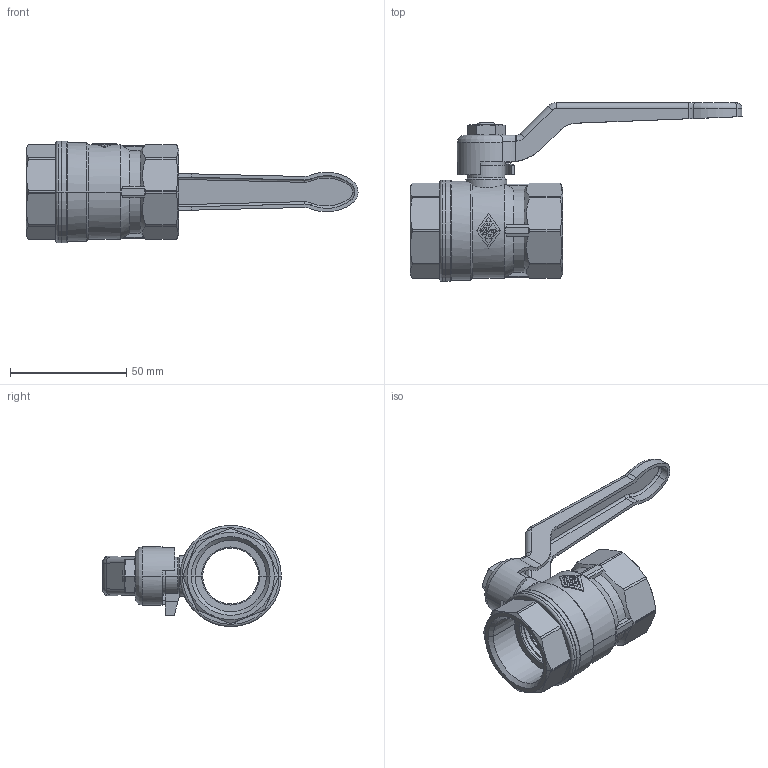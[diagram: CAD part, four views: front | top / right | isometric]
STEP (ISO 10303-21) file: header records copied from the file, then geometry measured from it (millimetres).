
FILE_DESCRIPTION(('OneSpaceDesigner STEP Export'),'2;1');
FILE_NAME('1500060000.stp','2007-10-08T11:19:51',(''),(''),'OneSpace Designer STEP processor for AP214 (Solid Model)','OneSpace Modeling 15.00B 25-Jun-2007 (C) CoCreate Software GmbH','');
FILE_SCHEMA(('AUTOMOTIVE_DESIGN { 1 0 10303 214 1 1 1 1 }'));
Length unit declared in the file: millimetre
Products named in the file (2): 1500060000
Assembly tree (1 placements, depth 2):
  1500060000
    1500060000
Bounding box: 142.58 x 76.75 x 43.5 mm (x, y, z)
Volume: 54514.1 mm3; surface area: 26231.7 mm2
Topology: 1 solids, 3 shells, 473 faces, 1234 edges, 782 vertices
Faces by surface type: plane 181, cylinder 176, cone 77, torus 18, bspline 16, extrusion 5
Entity records: 22864 total; most frequent: CARTESIAN_POINT 11533, ORIENTED_EDGE 2464, DIRECTION 1682, EDGE_CURVE 1232, VERTEX_POINT 782, VECTOR 568, LINE 563, AXIS2_PLACEMENT_3D 557
